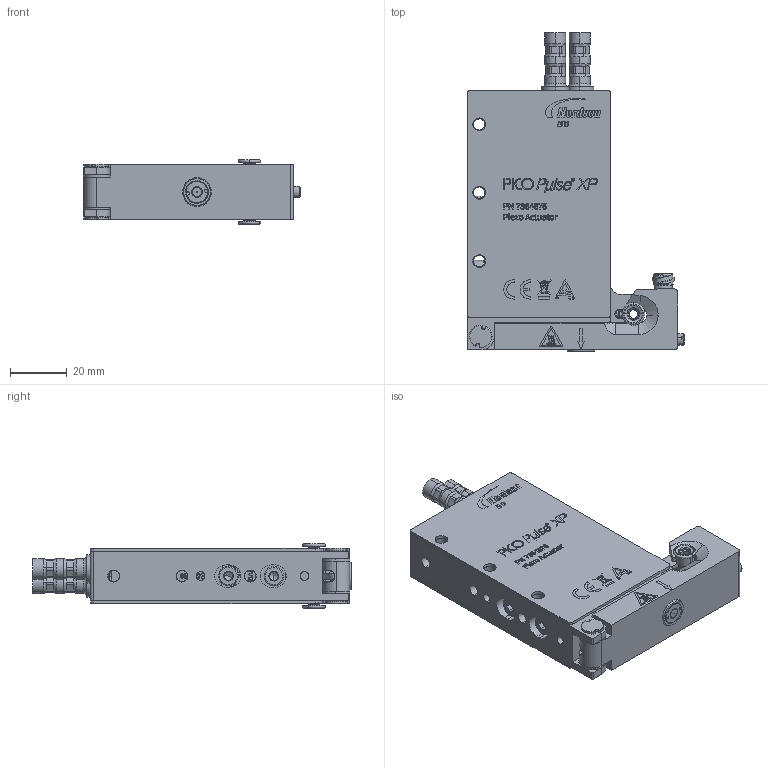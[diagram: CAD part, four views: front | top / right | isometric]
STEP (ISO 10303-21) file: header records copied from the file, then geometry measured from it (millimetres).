
FILE_DESCRIPTION (( 'STEP AP214' ), '1' );
FILE_NAME ('NORDSONEFD-7364876 PICO PULSE XP JET VALVE.STEP', '2021-11-19T05:10:52', ( '' ), ( '' ), 'SwSTEP 2.0', 'SolidWorks 2021', '' );
FILE_SCHEMA (( 'AUTOMOTIVE_DESIGN' ));
Length unit declared in the file: inch
Products named in the file (1): NORDSONEFD-7364876  PICO PULSE XP JET VALVE
Bounding box: 76.51 x 112.15 x 22.68 mm (x, y, z)
Surface area: 26318.6 mm2 (no closed solid volume)
Topology: 0 solids, 62 shells, 827 faces, 4689 edges, 3939 vertices
Faces by surface type: plane 437, cylinder 180, bspline 98, cone 84, torus 20, sphere 8
Entity records: 90817 total; most frequent: CARTESIAN_POINT 56209, ORIENTED_EDGE 6784, DIRECTION 4871, EDGE_CURVE 4675, VERTEX_POINT 3933, VECTOR 2353, LINE 2353, B_SPLINE_CURVE_WITH_KNOTS 1764
